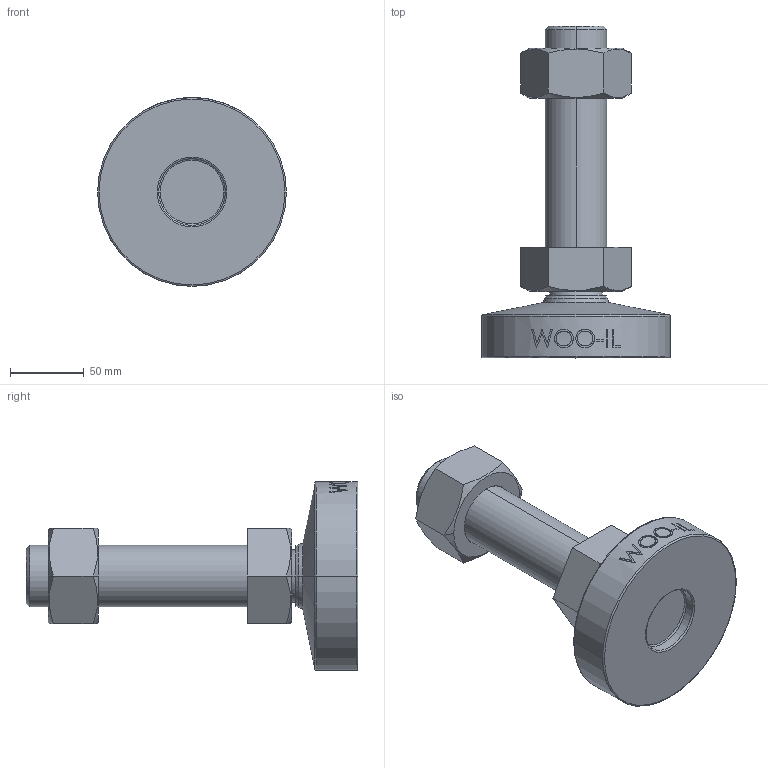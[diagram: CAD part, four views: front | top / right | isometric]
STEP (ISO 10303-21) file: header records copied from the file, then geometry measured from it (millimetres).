
FILE_DESCRIPTION (( 'STEP AP214' ), '1' );
FILE_NAME ('MFN128-M42-150.step', '2021-03-29T07:34:37', ( '' ), ( '' ), 'SwSTEP 2.0', 'SolidWorks 2019', '' );
FILE_SCHEMA (( 'AUTOMOTIVE_DESIGN' ));
Length unit declared in the file: millimetre
Products named in the file (2): MFN128-M42-150
Bounding box: 128 x 225 x 128 mm (x, y, z)
Volume: 816128.4 mm3; surface area: 86645 mm2
Topology: 2 solids, 2 shells, 107 faces, 247 edges, 156 vertices
Faces by surface type: plane 47, cone 18, cylinder 16, bspline 16, torus 8, sphere 2
Entity records: 4761 total; most frequent: CARTESIAN_POINT 2394, ORIENTED_EDGE 494, DIRECTION 447, EDGE_CURVE 247, AXIS2_PLACEMENT_3D 173, VERTEX_POINT 156, EDGE_LOOP 121, ADVANCED_FACE 107
